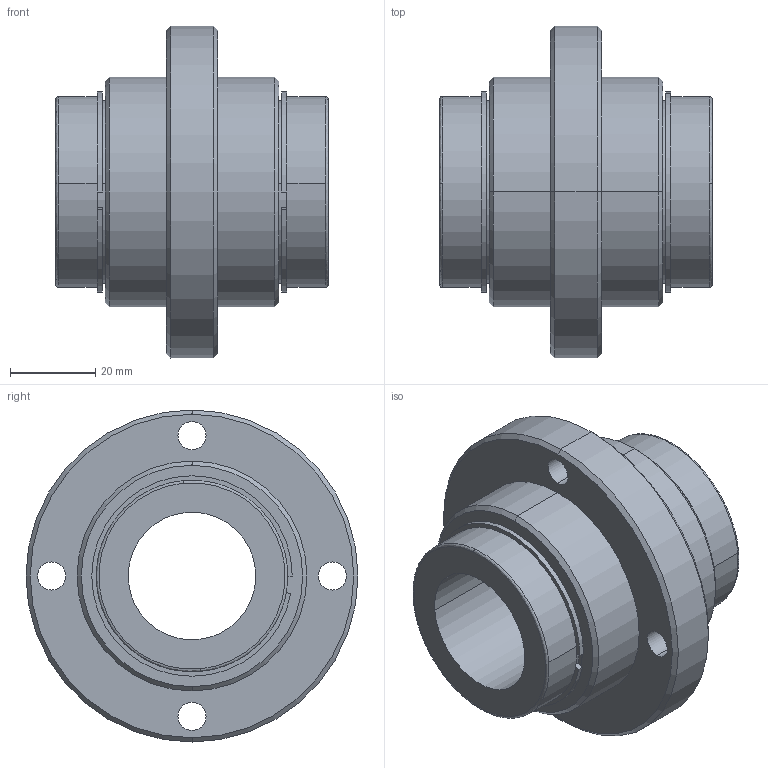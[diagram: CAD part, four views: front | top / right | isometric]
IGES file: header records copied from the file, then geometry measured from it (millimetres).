
Start section: 3D InterOp IGES (Version 21 0 1), Spatial Corp. Copyright (c) 1999-2007.
Global section: file name: PNCD-30VUU.igs; native system: Spatial Corp.; preprocessor: 3D InterOp GENERIC/IGES 3.0; author: Noname; organization: Noname; date: 20220207.092717; units: millimetre
Bounding box: 64 x 78 x 78 mm (x, y, z)
Surface area: 39302 mm2 (no closed solid volume)
Topology: 0 solids, 0 shells, 66 faces, 300 edges, 300 vertices
Faces by surface type: revolution 48, extrusion 18
